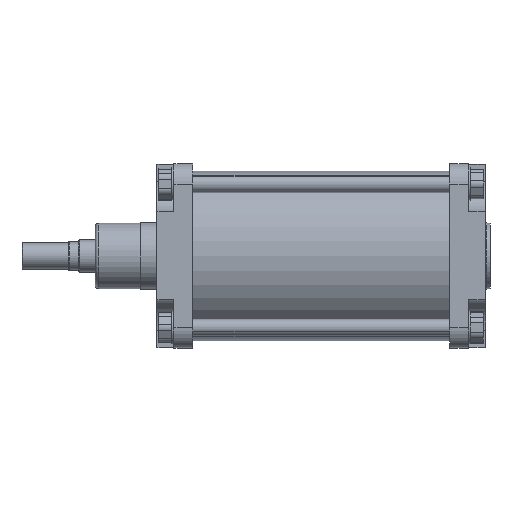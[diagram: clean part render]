
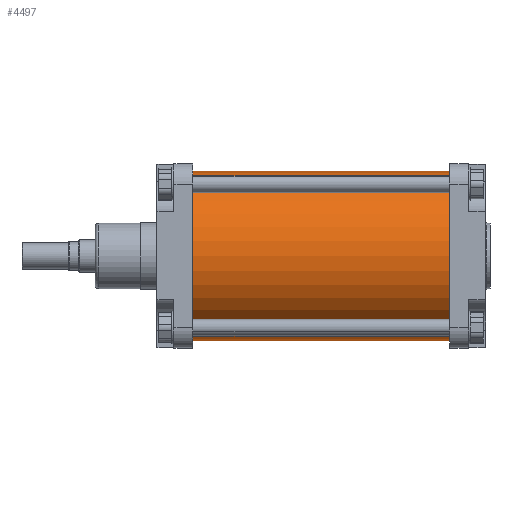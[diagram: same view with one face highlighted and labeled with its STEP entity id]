
A CAD part, top view. The second image highlights one B-rep face of the part: STEP entity #4497.
In plain terms, the highlighted cylindrical face has radius 130 mm (diameter 260 mm), a partial arc.
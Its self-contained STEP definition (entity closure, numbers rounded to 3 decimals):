
#2427=CARTESIAN_POINT('Vertex',(-50.,-130.,0.)) ;
#2429=CARTESIAN_POINT('Vertex',(-50.,130.,0.)) ;
#2432=CARTESIAN_POINT('Axis2P3D Location',(-50.,0.,0.)) ;
#4467=CARTESIAN_POINT('Axis2P3D Location',(147.,0.,0.)) ;
#4472=CARTESIAN_POINT('Line Origine',(147.,130.,0.)) ;
#4476=CARTESIAN_POINT('Vertex',(344.,130.,0.)) ;
#4479=CARTESIAN_POINT('Line Origine',(147.,-130.,0.)) ;
#4483=CARTESIAN_POINT('Vertex',(344.,-130.,0.)) ;
#4486=CARTESIAN_POINT('Axis2P3D Location',(344.,0.,0.)) ;
#2433=DIRECTION('Axis2P3D Direction',(-1.,0.,0.)) ;
#4468=DIRECTION('Axis2P3D Direction',(1.,-0.,0.)) ;
#4469=DIRECTION('Axis2P3D XDirection',(0.,1.,0.)) ;
#4473=DIRECTION('Vector Direction',(1.,0.,0.)) ;
#4480=DIRECTION('Vector Direction',(1.,0.,0.)) ;
#4487=DIRECTION('Axis2P3D Direction',(1.,-0.,0.)) ;
#2434=AXIS2_PLACEMENT_3D('Circle Axis2P3D',#2432,#2433,$) ;
#4470=AXIS2_PLACEMENT_3D('Cylinder Axis2P3D',#4467,#4468,#4469) ;
#4488=AXIS2_PLACEMENT_3D('Circle Axis2P3D',#4486,#4487,$) ;
#4492=ORIENTED_EDGE('',*,*,#4478,.F.) ;
#4493=ORIENTED_EDGE('',*,*,#2436,.T.) ;
#4494=ORIENTED_EDGE('',*,*,#4485,.T.) ;
#4495=ORIENTED_EDGE('',*,*,#4490,.F.) ;
#4474=VECTOR('Line Direction',#4473,1.) ;
#4481=VECTOR('Line Direction',#4480,1.) ;
#4497=ADVANCED_FACE('PartBody',(#4496),#4471,.T.) ;
#2435=CIRCLE('generated circle',#2434,130.) ;
#4489=CIRCLE('generated circle',#4488,130.) ;
#4471=CYLINDRICAL_SURFACE('generated cylinder',#4470,130.) ;
#2436=EDGE_CURVE('',#2430,#2428,#2435,.F.) ;
#4478=EDGE_CURVE('',#2430,#4477,#4475,.T.) ;
#4485=EDGE_CURVE('',#2428,#4484,#4482,.T.) ;
#4490=EDGE_CURVE('',#4477,#4484,#4489,.T.) ;
#4491=EDGE_LOOP('',(#4492,#4493,#4494,#4495)) ;
#4496=FACE_OUTER_BOUND('',#4491,.T.) ;
#4475=LINE('Line',#4472,#4474) ;
#4482=LINE('Line',#4479,#4481) ;
#2428=VERTEX_POINT('',#2427) ;
#2430=VERTEX_POINT('',#2429) ;
#4477=VERTEX_POINT('',#4476) ;
#4484=VERTEX_POINT('',#4483) ;
